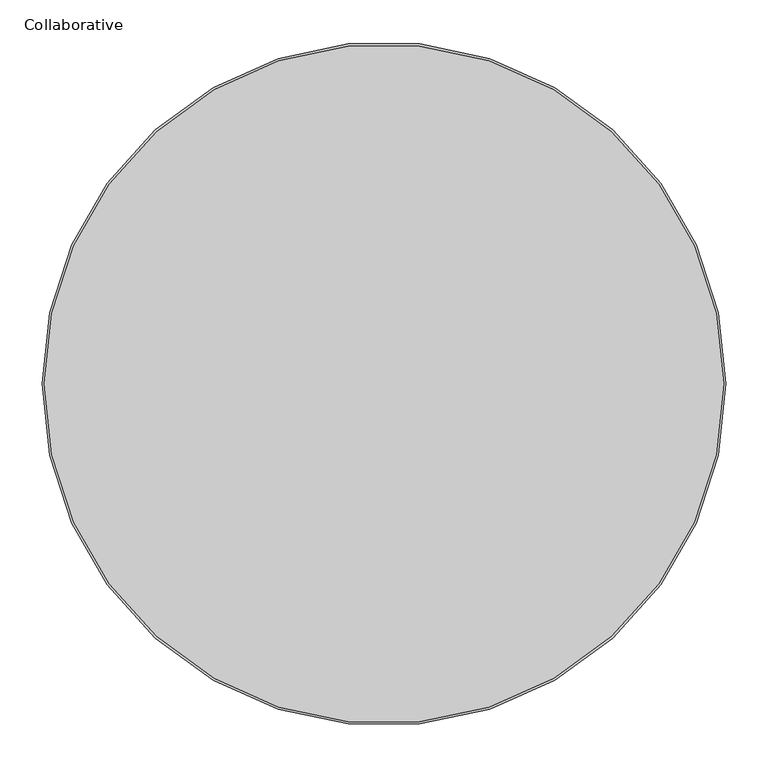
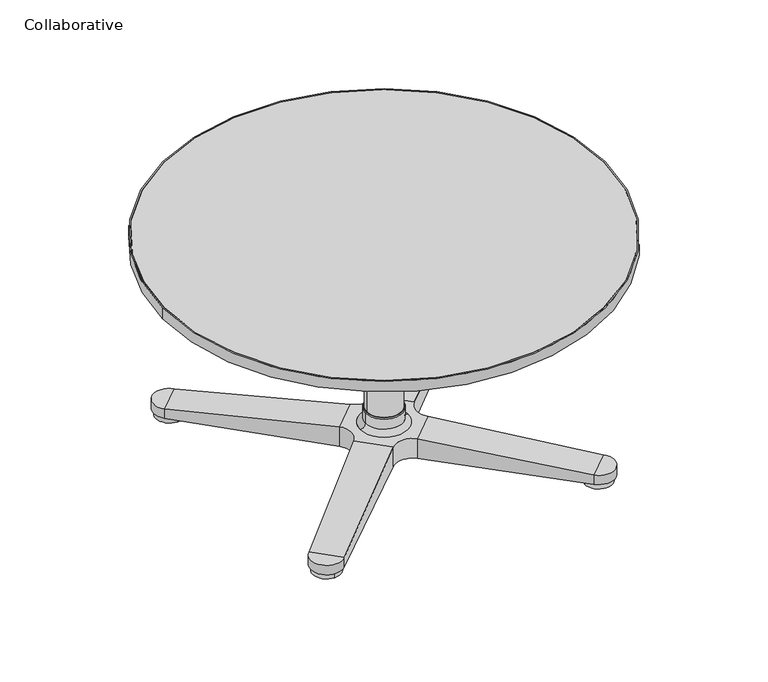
"""IFC4 building model written with IfcOpenShell, lengths in millimetres: furniture geometry, Steelcase - C Scape - Desking - Lounge Table : Collaborative."""

import ifcopenshell
import ifcopenshell.guid

model = None  # the IFC model being written
_history = None  # IfcOwnerHistory: only IFC2X3 demands one
_inside = {}  # id of a spatial element -> (the spatial element, [elements in it])
_under = {}  # id of a project, library or spatial element -> (it, [spatial elements below it])
_declared = {}  # id of a project -> (the project, [libraries it declares])
_typed = {}  # id of a type object -> (the type object, [elements of that type])
_made_of = {}  # id of a material, layer set ... -> (it, [elements and type objects made of it])


def new_model(schema):
    """Start an empty IFC model of exactly this schema.

    Asked for "IFC4X3", IfcOpenShell would pick the latest addendum, in which some entities
    have other attributes; the version numbers below select the first issue.
    IFC2X3 requires an IfcOwnerHistory on every rooted entity: one is made here for all.
    """
    global model, _history
    if schema == "IFC4X3":
        model = ifcopenshell.file(schema_version=(4, 3, 0, 0))
    else:
        model = ifcopenshell.file(schema=schema)
    _inside.clear()
    _under.clear()
    _declared.clear()
    _typed.clear()
    _made_of.clear()
    _history = None
    if model.schema == "IFC2X3":
        org = make("IfcOrganization", Name="unknown")
        user = make(
            "IfcPersonAndOrganization",
            ThePerson=make("IfcPerson", FamilyName="unknown"),
            TheOrganization=org,
        )
        app = make(
            "IfcApplication",
            ApplicationDeveloper=org,
            Version="unknown",
            ApplicationFullName="unknown",
            ApplicationIdentifier="unknown",
        )
        _history = make(
            "IfcOwnerHistory",
            OwningUser=user,
            OwningApplication=app,
            ChangeAction="ADDED",
            CreationDate=0,
        )
    return model


def make(cls, **values):
    """One entity of the class cls with the attributes given. An attribute that is None is left unset."""
    return model.create_entity(
        cls, **{name: value for name, value in values.items() if value is not None}
    )


def rooted(cls, **values):
    """An entity with a GlobalId (a new one), such as an element, a storey or a relation."""
    return make(cls, GlobalId=ifcopenshell.guid.new(), OwnerHistory=_history, **values)


def si_unit(unit_type, name, prefix=None):
    """IfcSIUnit, for example si_unit("LENGTHUNIT", "METRE", prefix="MILLI")."""
    return make("IfcSIUnit", UnitType=unit_type, Prefix=prefix, Name=name)


def assignment(units):
    """IfcUnitAssignment: the units of a project."""
    return None if units is None else make("IfcUnitAssignment", Units=units)


def point(xyz):
    """IfcCartesianPoint."""
    return None if xyz is None else make("IfcCartesianPoint", Coordinates=xyz)


def direction(xyz):
    """IfcDirection."""
    return None if xyz is None else make("IfcDirection", DirectionRatios=xyz)


def frame(location, z_axis=None, x_axis=None):
    """IfcAxis2Placement3D, a coordinate frame: its origin and axes. An axis left out is left unset."""
    return make(
        "IfcAxis2Placement3D",
        Location=point(location),
        Axis=direction(z_axis),
        RefDirection=direction(x_axis),
    )


def frame_2d(location, x_axis=None):
    """IfcAxis2Placement2D, a coordinate frame in the plane: its origin and x axis."""
    return make(
        "IfcAxis2Placement2D", Location=point(location), RefDirection=direction(x_axis)
    )


def origin():
    """The frame at (0, 0, 0) with its axes left unset."""
    return frame((0.0, 0.0, 0.0))


def origin_2d():
    """The frame at (0, 0) in the plane with its x axis left unset."""
    return frame_2d((0.0, 0.0))


def place(relative_to, where):
    """IfcLocalPlacement: puts the frame where relative to a parent placement (None: the world)."""
    return make(
        "IfcLocalPlacement", PlacementRelTo=relative_to, RelativePlacement=where
    )


def context(
    kind, dimensions, precision=None, world=None, true_north=None, identifier=None
):
    """IfcGeometricRepresentationContext, for example the 3D "Model" context."""
    return make(
        "IfcGeometricRepresentationContext",
        ContextIdentifier=identifier,
        ContextType=kind,
        CoordinateSpaceDimension=dimensions,
        Precision=precision,
        WorldCoordinateSystem=world,
        TrueNorth=true_north,
    )


def project(units=None, contexts=None):
    """IfcProject with its units and contexts."""
    return rooted(
        "IfcProject",
        Name="project",
        RepresentationContexts=contexts,
        UnitsInContext=assignment(units),
    )


def spatial(cls, under=None, at=None, **own):
    """A site, building, storey or space (cls), placed at a placement, below another one or the project."""
    s = rooted(cls, ObjectPlacement=at, **own)
    if under is not None:
        _under.setdefault(under.id(), (under, []))[1].append(s)
    return s


def polyline(points):
    """IfcPolyline through the points."""
    return make("IfcPolyline", Points=[point(p) for p in points])


def circle_curve(where, radius):
    """IfcCircle in the frame where."""
    return make("IfcCircle", Position=where, Radius=radius)


def ellipse_curve(where, semi_axis1, semi_axis2):
    """IfcEllipse in the frame where."""
    return make(
        "IfcEllipse", Position=where, SemiAxis1=semi_axis1, SemiAxis2=semi_axis2
    )


def trimmed(basis, trim1, trim2, sense, master):
    """IfcTrimmedCurve: the piece of a basis curve between two trims."""
    return make(
        "IfcTrimmedCurve",
        BasisCurve=basis,
        Trim1=trim1,
        Trim2=trim2,
        SenseAgreement=sense,
        MasterRepresentation=master,
    )


def segment(curve, same_sense, transition):
    """IfcCompositeCurveSegment."""
    return make(
        "IfcCompositeCurveSegment",
        Transition=transition,
        SameSense=same_sense,
        ParentCurve=curve,
    )


def composite_curve(segments, self_intersect=None):
    """IfcCompositeCurve: segments joined end to end."""
    return make("IfcCompositeCurve", Segments=segments, SelfIntersect=self_intersect)


def outline(outer, holes=None, kind="AREA"):
    """IfcArbitraryClosedProfileDef: a profile drawn as a closed curve; with holes, ...WithVoids."""
    if holes is None:
        return make("IfcArbitraryClosedProfileDef", ProfileType=kind, OuterCurve=outer)
    return make(
        "IfcArbitraryProfileDefWithVoids",
        ProfileType=kind,
        OuterCurve=outer,
        InnerCurves=holes,
    )


def extrude(swept, where, along, depth):
    """IfcExtrudedAreaSolid: the profile swept, set in the frame where, extruded along a direction by depth."""
    return make(
        "IfcExtrudedAreaSolid",
        SweptArea=swept,
        Position=where,
        ExtrudedDirection=direction(along),
        Depth=depth,
    )


def shape(context_of_items, identifier, shape_type, items):
    """IfcShapeRepresentation: the items that make up one representation, for example the "Body"."""
    return make(
        "IfcShapeRepresentation",
        ContextOfItems=context_of_items,
        RepresentationIdentifier=identifier,
        RepresentationType=shape_type,
        Items=items,
    )


def source(mapping_origin, context_of_items, identifier, shape_type, items):
    """IfcRepresentationMap: a shape defined once, which mapped items show again and again."""
    return make(
        "IfcRepresentationMap",
        MappingOrigin=mapping_origin,
        MappedRepresentation=shape(context_of_items, identifier, shape_type, items),
    )


def transform(
    local_origin,
    x_axis=None,
    y_axis=None,
    z_axis=None,
    scale=None,
    scale2=None,
    scale3=None,
    uniform=True,
):
    """IfcCartesianTransformationOperator3D, or its non-uniform kind. x_axis, y_axis, z_axis: its Axis1, 2, 3."""
    if uniform:
        return make(
            "IfcCartesianTransformationOperator3D",
            Axis1=direction(x_axis),
            Axis2=direction(y_axis),
            LocalOrigin=point(local_origin),
            Scale=scale,
            Axis3=direction(z_axis),
        )
    return make(
        "IfcCartesianTransformationOperator3DnonUniform",
        Axis1=direction(x_axis),
        Axis2=direction(y_axis),
        LocalOrigin=point(local_origin),
        Scale=scale,
        Axis3=direction(z_axis),
        Scale2=scale2,
        Scale3=scale3,
    )


def mapped(mapping_source, mapping_target):
    """IfcMappedItem: shows the shape of a source again, moved by a transform."""
    return make(
        "IfcMappedItem", MappingSource=mapping_source, MappingTarget=mapping_target
    )


def made_of(thing, what):
    """Note that an element or type object is made of a material, layer set ...; save() writes the relation."""
    if what is not None:
        _made_of.setdefault(what.id(), (what, []))[1].append(thing)
    return thing


def element(
    cls,
    number,
    at=None,
    inside=None,
    cuts=None,
    type_object=None,
    material=None,
    context=None,
    identifier="Body",
    shape_type=None,
    held_by="IfcProductDefinitionShape",
    body=None,
    shapes=None,
    **own,
):
    """One element of the class cls, such as IfcWall. Its Tag is "e" and its number.

    at: its placement. inside: the storey or other place that contains it. cuts: it is an
    opening in that element (IfcRelVoidsElement). A single representation is given by context,
    identifier, shape_type and body (its items); several are given by shapes. held_by: the class
    of the entity that holds the representations. save() writes the other relations.
    """
    e = rooted(cls, Tag="e%d" % number, ObjectPlacement=at, **own)
    if body is not None:
        shapes = [shape(context, identifier, shape_type, body)]
    if shapes is not None:
        e.Representation = make(held_by, Representations=shapes)
    if inside is not None:
        _inside.setdefault(inside.id(), (inside, []))[1].append(e)
    if cuts is not None:
        rooted(
            "IfcRelVoidsElement", RelatingBuildingElement=cuts, RelatedOpeningElement=e
        )
    if type_object is not None:
        _typed.setdefault(type_object.id(), (type_object, []))[1].append(e)
    return made_of(e, material)


def aggregate(whole, parts):
    """IfcRelAggregates: a whole, such as a stair, and the parts it consists of."""
    return rooted("IfcRelAggregates", RelatingObject=whole, RelatedObjects=parts)


def save(model, path):
    """Write the relations noted so far, then the file.

    IfcRelAggregates (storeys below a building ...), IfcRelContainedInSpatialStructure (elements
    in a storey), IfcRelDefinesByType, IfcRelAssociatesMaterial and IfcRelDeclares: one each for
    every whole, place, type object, material and project.
    """
    for whole, parts in _under.values():
        aggregate(whole, parts)
    for where, things in _inside.values():
        rooted(
            "IfcRelContainedInSpatialStructure",
            RelatedElements=things,
            RelatingStructure=where,
        )
    for kind, things in _typed.values():
        rooted("IfcRelDefinesByType", RelatedObjects=things, RelatingType=kind)
    for what, things in _made_of.values():
        rooted("IfcRelAssociatesMaterial", RelatedObjects=things, RelatingMaterial=what)
    for by, libraries in _declared.values():
        rooted("IfcRelDeclares", RelatingContext=by, RelatedDefinitions=libraries)
    model.write(path)


def plane_surface(at):
    """IfcPlane: the flat surface through the origin of the frame at, square to its z axis."""
    return make("IfcPlane", Position=at)


def cylinder_surface(at, radius):
    """IfcCylindricalSurface: all points at the distance radius from the z axis of the frame at."""
    return make("IfcCylindricalSurface", Position=at, Radius=radius)


def revolved_surface(curve, axis_point, axis_direction):
    """IfcSurfaceOfRevolution: the curve turned about the line through axis_point along axis_direction."""
    return make(
        "IfcSurfaceOfRevolution",
        SweptCurve=make("IfcArbitraryOpenProfileDef", ProfileType="CURVE", Curve=curve),
        AxisPosition=make("IfcAxis1Placement", Location=point(axis_point), Axis=direction(axis_direction)),
    )


def advanced_brep(points, edges, surfaces, faces):
    """IfcAdvancedBrep: a solid bounded by faces that lie on surfaces and meet in shared edges.

    An edge is (start, end): straight between two places in points (the first is 0);
    or (start, end, curve); or (start, end, curve, False) where it runs against its curve.
    A face is (place in surfaces, loops), or (place, loops, False) where it looks against
    its surface's normal. A loop lists edges by number (the first is 1), with a minus sign
    where the edge is run from its end to its start. The first loop is the outer one.
    """
    corners = [point(p) for p in points]
    vertices = [make("IfcVertexPoint", VertexGeometry=c) for c in corners]
    made = []
    for start, end, *more in edges:
        made.append(
            make(
                "IfcEdgeCurve",
                EdgeStart=vertices[start],
                EdgeEnd=vertices[end],
                EdgeGeometry=more[0] if more else make("IfcPolyline", Points=[corners[start], corners[end]]),
                SameSense=more[1] if len(more) > 1 else True,
            )
        )
    hull = []
    for where, loops, *sense in faces:
        bounds = []
        for j, loop in enumerate(loops):
            ring = [make("IfcOrientedEdge", EdgeElement=made[abs(k) - 1], Orientation=k > 0) for k in loop]
            bounds.append(
                make(
                    "IfcFaceOuterBound" if j == 0 else "IfcFaceBound",
                    Bound=make("IfcEdgeLoop", EdgeList=ring),
                    Orientation=True,
                )
            )
        hull.append(make("IfcAdvancedFace", Bounds=bounds, FaceSurface=surfaces[where], SameSense=sense[0] if sense else True))
    return make("IfcAdvancedBrep", Outer=make("IfcClosedShell", CfsFaces=hull))


def collaborative_a340eaef(model_context):
    return source(origin(), model_context, "Body", "SolidModel", [
        advanced_brep(
        [(-249.3159626, -249.3000025, 0.0), (-249.3159626, -223.9000025, 0.0), (-249.3159626, -274.7000025, 0.0), (-249.3159626, -252.3609912, 11.0998), (-249.3159626, -246.2390139, 11.0998), (-249.3159626, -249.3000025, 11.0998), (-249.3159626, -252.3609912, 9.525), (-249.3159626, -246.2390139, 9.525), (-249.3159626, -274.7000025, 9.525), (-249.3159626, -223.9000025, 9.525)],
        [
            (0, 1),
            (1, 2, circle_curve(frame((-249.3159626, -249.3000025, 0.0), z_axis=(0.0, 0.0, -1.0), x_axis=(0.0, 1.0, 0.0)), 25.4)),
            (2, 0),
            (2, 1, circle_curve(frame((-249.3159626, -249.3000025, 0.0), z_axis=(0.0, 0.0, -1.0), x_axis=(0.0, 1.0, 0.0)), 25.4)),
            (3, 4, circle_curve(frame((-249.3159626, -249.3000025, 11.0998), z_axis=(0.0, 0.0, 1.0), x_axis=(0.0, 1.0, 0.0)), 3.0609887)),
            (4, 5),
            (5, 3),
            (4, 3, circle_curve(frame((-249.3159626, -249.3000025, 11.0998), z_axis=(0.0, 0.0, 1.0), x_axis=(0.0, 1.0, 0.0)), 3.0609887)),
            (6, 7, circle_curve(frame((-249.3159626, -249.3000025, 9.525), z_axis=(0.0, 0.0, 1.0), x_axis=(0.0, 1.0, 0.0)), 3.0609887)),
            (7, 4),
            (3, 6),
            (7, 6, circle_curve(frame((-249.3159626, -249.3000025, 9.525), z_axis=(0.0, 0.0, 1.0), x_axis=(0.0, 1.0, 0.0)), 3.0609887)),
            (8, 9, circle_curve(frame((-249.3159626, -249.3000025, 9.525), z_axis=(0.0, 0.0, 1.0), x_axis=(0.0, 1.0, 0.0)), 25.4)),
            (9, 7),
            (6, 8),
            (9, 8, circle_curve(frame((-249.3159626, -249.3000025, 9.525), z_axis=(0.0, 0.0, 1.0), x_axis=(0.0, 1.0, 0.0)), 25.4)),
            (1, 9),
            (8, 2),
        ],
        [
            plane_surface(frame((-249.3159626, -249.3000025, 0.0), z_axis=(0.0, 0.0, -1.0), x_axis=(0.0, 1.0, 0.0))),
            plane_surface(frame((-249.3159626, -249.3000025, 11.0998), z_axis=(0.0, 0.0, 1.0), x_axis=(0.0, 1.0, 0.0))),
            cylinder_surface(frame((-249.3159626, -249.3000025, 2.6412438), z_axis=(0.0, 0.0, -1.0), x_axis=(0.0, 1.0, 0.0)), 3.0609887),
            plane_surface(frame((-249.3159626, -249.3000025, 9.525), z_axis=(0.0, 0.0, 1.0), x_axis=(0.0, 1.0, 0.0))),
            cylinder_surface(frame((-249.3159626, -249.3000025, 2.6412438), z_axis=(0.0, 0.0, -1.0), x_axis=(0.0, 1.0, 0.0)), 25.4),
        ],
        [
            (0, [[1, 2, 3]]),
            (0, [[-3, 4, -1]]),
            (1, [[5, 6, 7]]),
            (1, [[8, -7, -6]]),
            (2, [[9, 10, -5, 11]]),
            (2, [[12, -11, -8, -10]]),
            (3, [[13, 14, -9, 15]]),
            (3, [[16, -15, -12, -14]]),
            (4, [[-2, 17, -13, 18]]),
            (4, [[-4, -18, -16, -17]]),
        ],
    ),
        advanced_brep(
        [(-249.3159626, 274.7000025, 9.525), (-249.3159626, 223.9000025, 9.525), (-249.3159626, 223.9000025, 0.0), (-249.3159626, 274.7000025, 0.0), (-249.3159626, 252.3609912, 9.525), (-249.3159626, 246.2390139, 9.525), (-249.3159626, 252.3609912, 11.0998), (-249.3159626, 246.2390139, 11.0998), (-249.3159626, 249.3000025, 11.0998), (-249.3159626, 249.3000025, 0.0)],
        [
            (0, 1, circle_curve(frame((-249.3159626, 249.3000025, 9.525), z_axis=(0.0, 0.0, -1.0), x_axis=(0.0, -1.0, 0.0)), 25.4)),
            (1, 2),
            (2, 3, circle_curve(frame((-249.3159626, 249.3000025, 0.0), z_axis=(0.0, 0.0, 1.0), x_axis=(0.0, -1.0, 0.0)), 25.4)),
            (3, 0),
            (1, 0, circle_curve(frame((-249.3159626, 249.3000025, 9.525), z_axis=(0.0, 0.0, -1.0), x_axis=(0.0, -1.0, 0.0)), 25.4)),
            (3, 2, circle_curve(frame((-249.3159626, 249.3000025, 0.0), z_axis=(0.0, 0.0, 1.0), x_axis=(0.0, -1.0, 0.0)), 25.4)),
            (4, 5, circle_curve(frame((-249.3159626, 249.3000025, 9.525), z_axis=(0.0, 0.0, -1.0), x_axis=(0.0, -1.0, 0.0)), 3.0609887)),
            (5, 1),
            (0, 4),
            (5, 4, circle_curve(frame((-249.3159626, 249.3000025, 9.525), z_axis=(0.0, 0.0, -1.0), x_axis=(0.0, -1.0, 0.0)), 3.0609887)),
            (6, 7, circle_curve(frame((-249.3159626, 249.3000025, 11.0998), z_axis=(0.0, 0.0, -1.0), x_axis=(0.0, -1.0, 0.0)), 3.0609887)),
            (7, 5),
            (4, 6),
            (7, 6, circle_curve(frame((-249.3159626, 249.3000025, 11.0998), z_axis=(0.0, 0.0, -1.0), x_axis=(0.0, -1.0, 0.0)), 3.0609887)),
            (8, 7),
            (6, 8),
            (2, 9),
            (9, 3),
        ],
        [
            cylinder_surface(frame((-249.3159626, 249.3000025, 2.6412438), z_axis=(0.0, 0.0, 1.0), x_axis=(0.0, -1.0, 0.0)), 25.4),
            plane_surface(frame((-249.3159626, 249.3000025, 9.525), z_axis=(0.0, 0.0, 1.0), x_axis=(0.0, -1.0, 0.0))),
            cylinder_surface(frame((-249.3159626, 249.3000025, 2.6412438), z_axis=(0.0, 0.0, 1.0), x_axis=(0.0, -1.0, 0.0)), 3.0609887),
            plane_surface(frame((-249.3159626, 249.3000025, 11.0998), z_axis=(0.0, 0.0, 1.0), x_axis=(0.0, -1.0, 0.0))),
            plane_surface(frame((-249.3159626, 249.3000025, 0.0), z_axis=(0.0, 0.0, -1.0), x_axis=(0.0, -1.0, 0.0))),
        ],
        [
            (0, [[1, 2, 3, 4]]),
            (0, [[5, -4, 6, -2]]),
            (1, [[7, 8, -1, 9]]),
            (1, [[10, -9, -5, -8]]),
            (2, [[11, 12, -7, 13]]),
            (2, [[14, -13, -10, -12]]),
            (3, [[15, -11, 16]]),
            (3, [[-16, -14, -15]]),
            (4, [[-3, 17, 18]]),
            (4, [[-6, -18, -17]]),
        ],
    ),
        advanced_brep(
        [(249.3159626, 249.3000025, 0.0), (249.3159626, 223.9000025, 0.0), (249.3159626, 274.7000025, 0.0), (249.3159626, 252.3609912, 11.0998), (249.3159626, 246.2390139, 11.0998), (249.3159626, 249.3000025, 11.0998), (249.3159626, 252.3609912, 9.525), (249.3159626, 246.2390139, 9.525), (249.3159626, 274.7000025, 9.525), (249.3159626, 223.9000025, 9.525)],
        [
            (0, 1),
            (1, 2, circle_curve(frame((249.3159626, 249.3000025, 0.0), z_axis=(0.0, 0.0, -1.0), x_axis=(0.0, -1.0, 0.0)), 25.4)),
            (2, 0),
            (2, 1, circle_curve(frame((249.3159626, 249.3000025, 0.0), z_axis=(0.0, 0.0, -1.0), x_axis=(0.0, -1.0, 0.0)), 25.4)),
            (3, 4, circle_curve(frame((249.3159626, 249.3000025, 11.0998), z_axis=(0.0, 0.0, 1.0), x_axis=(0.0, -1.0, 0.0)), 3.0609887)),
            (4, 5),
            (5, 3),
            (4, 3, circle_curve(frame((249.3159626, 249.3000025, 11.0998), z_axis=(0.0, 0.0, 1.0), x_axis=(0.0, -1.0, 0.0)), 3.0609887)),
            (6, 7, circle_curve(frame((249.3159626, 249.3000025, 9.525), z_axis=(0.0, 0.0, 1.0), x_axis=(0.0, -1.0, 0.0)), 3.0609887)),
            (7, 4),
            (3, 6),
            (7, 6, circle_curve(frame((249.3159626, 249.3000025, 9.525), z_axis=(0.0, 0.0, 1.0), x_axis=(0.0, -1.0, 0.0)), 3.0609887)),
            (8, 9, circle_curve(frame((249.3159626, 249.3000025, 9.525), z_axis=(0.0, 0.0, 1.0), x_axis=(0.0, -1.0, 0.0)), 25.4)),
            (9, 7),
            (6, 8),
            (9, 8, circle_curve(frame((249.3159626, 249.3000025, 9.525), z_axis=(0.0, 0.0, 1.0), x_axis=(0.0, -1.0, 0.0)), 25.4)),
            (1, 9),
            (8, 2),
        ],
        [
            plane_surface(frame((249.3159626, 249.3000025, 0.0), z_axis=(0.0, 0.0, -1.0), x_axis=(0.0, -1.0, 0.0))),
            plane_surface(frame((249.3159626, 249.3000025, 11.0998), z_axis=(0.0, 0.0, 1.0), x_axis=(0.0, -1.0, 0.0))),
            cylinder_surface(frame((249.3159626, 249.3000025, 2.6412438), z_axis=(0.0, 0.0, -1.0), x_axis=(0.0, -1.0, 0.0)), 3.0609887),
            plane_surface(frame((249.3159626, 249.3000025, 9.525), z_axis=(0.0, 0.0, 1.0), x_axis=(0.0, -1.0, 0.0))),
            cylinder_surface(frame((249.3159626, 249.3000025, 2.6412438), z_axis=(0.0, 0.0, -1.0), x_axis=(0.0, -1.0, 0.0)), 25.4),
        ],
        [
            (0, [[1, 2, 3]]),
            (0, [[-3, 4, -1]]),
            (1, [[5, 6, 7]]),
            (1, [[8, -7, -6]]),
            (2, [[9, 10, -5, 11]]),
            (2, [[12, -11, -8, -10]]),
            (3, [[13, 14, -9, 15]]),
            (3, [[16, -15, -12, -14]]),
            (4, [[-2, 17, -13, 18]]),
            (4, [[-4, -18, -16, -17]]),
        ],
    ),
        advanced_brep(
        [(249.3000025, -249.3159626, 0.0), (223.9000025, -249.3159626, 0.0), (274.7000025, -249.3159626, 0.0), (252.3609912, -249.3159626, 11.0998), (246.2390139, -249.3159626, 11.0998), (249.3000025, -249.3159626, 11.0998), (252.3609912, -249.3159626, 9.525), (246.2390139, -249.3159626, 9.525), (274.7000025, -249.3159626, 9.525), (223.9000025, -249.3159626, 9.525)],
        [
            (0, 1),
            (1, 2, circle_curve(frame((249.3000025, -249.3159626, 0.0), z_axis=(0.0, 0.0, -1.0), x_axis=(-1.0, 0.0, 0.0)), 25.4)),
            (2, 0),
            (2, 1, circle_curve(frame((249.3000025, -249.3159626, 0.0), z_axis=(0.0, 0.0, -1.0), x_axis=(-1.0, 0.0, 0.0)), 25.4)),
            (3, 4, circle_curve(frame((249.3000025, -249.3159626, 11.0998), z_axis=(0.0, 0.0, 1.0), x_axis=(-1.0, 0.0, 0.0)), 3.0609887)),
            (4, 5),
            (5, 3),
            (4, 3, circle_curve(frame((249.3000025, -249.3159626, 11.0998), z_axis=(0.0, 0.0, 1.0), x_axis=(-1.0, 0.0, 0.0)), 3.0609887)),
            (6, 7, circle_curve(frame((249.3000025, -249.3159626, 9.525), z_axis=(0.0, 0.0, 1.0), x_axis=(-1.0, 0.0, 0.0)), 3.0609887)),
            (7, 4),
            (3, 6),
            (7, 6, circle_curve(frame((249.3000025, -249.3159626, 9.525), z_axis=(0.0, 0.0, 1.0), x_axis=(-1.0, 0.0, 0.0)), 3.0609887)),
            (8, 9, circle_curve(frame((249.3000025, -249.3159626, 9.525), z_axis=(0.0, 0.0, 1.0), x_axis=(-1.0, 0.0, 0.0)), 25.4)),
            (9, 7),
            (6, 8),
            (9, 8, circle_curve(frame((249.3000025, -249.3159626, 9.525), z_axis=(0.0, 0.0, 1.0), x_axis=(-1.0, 0.0, 0.0)), 25.4)),
            (1, 9),
            (8, 2),
        ],
        [
            plane_surface(frame((249.3000025, -249.3159626, 0.0), z_axis=(0.0, 0.0, -1.0), x_axis=(-1.0, 0.0, 0.0))),
            plane_surface(frame((249.3000025, -249.3159626, 11.0998), z_axis=(0.0, 0.0, 1.0), x_axis=(-1.0, 0.0, 0.0))),
            cylinder_surface(frame((249.3000025, -249.3159626, 2.6412438), z_axis=(0.0, 0.0, -1.0), x_axis=(-1.0, 0.0, 0.0)), 3.0609887),
            plane_surface(frame((249.3000025, -249.3159626, 9.525), z_axis=(0.0, 0.0, 1.0), x_axis=(-1.0, 0.0, 0.0))),
            cylinder_surface(frame((249.3000025, -249.3159626, 2.6412438), z_axis=(0.0, 0.0, -1.0), x_axis=(-1.0, 0.0, 0.0)), 25.4),
        ],
        [
            (0, [[1, 2, 3]]),
            (0, [[-3, 4, -1]]),
            (1, [[5, 6, 7]]),
            (1, [[8, -7, -6]]),
            (2, [[9, 10, -5, 11]]),
            (2, [[12, -11, -8, -10]]),
            (3, [[13, 14, -9, 15]]),
            (3, [[16, -15, -12, -14]]),
            (4, [[-2, 17, -13, 18]]),
            (4, [[-4, -18, -16, -17]]),
        ],
    ),
        advanced_brep(
        [(22.6781285, -68.3300991, 48.997771), (228.7300701, -269.8533933, 29.0517203), (269.674061, -228.9094025, 29.0517203), (68.3300991, -22.6781285, 48.997771), (22.6801711, -68.3320968, 11.0998), (228.7300701, -269.8533933, 11.0998), (-22.6781285, -68.3300991, 11.0998), (-228.7300701, -269.8533933, 11.0998), (-269.674061, -228.9094025, 11.0998), (-68.3300991, -22.6781285, 11.0998), (-68.3300991, 22.6781285, 11.0998), (-269.8533933, 228.7300701, 11.0998), (-269.674061, 228.9094025, 11.0998), (-228.7300701, 269.8533933, 11.0998), (-228.9094025, 269.674061, 11.0998), (-22.6781285, 68.3300991, 11.0998), (22.6781285, 68.3300991, 11.0998), (228.9094025, 269.674061, 11.0998), (228.7300701, 269.8533933, 11.0998), (269.674061, 228.9094025, 11.0998), (269.8533933, 228.7300701, 11.0998), (68.3300991, 22.6781285, 11.0998), (68.3300991, -22.6781285, 11.0998), (269.674061, -228.9094025, 11.0998), (22.6781285, 68.3300991, 48.997771), (-22.6781285, 68.3300991, 48.997771), (-68.3300991, 22.6781285, 48.997771), (-68.3300991, -22.6781285, 48.997771), (-22.6781285, -68.3300991, 48.997771), (68.3300991, 22.6781285, 48.997771), (-43.4884741, 0.0, 48.997771), (43.4884741, 0.0, 48.997771), (-269.674061, -228.9094025, 29.0517203), (-228.7300701, -269.8533933, 29.0517203), (-269.8533933, 228.7300701, 29.0517203), (-269.674061, 228.9094025, 29.0517203), (-228.9094025, 269.674061, 29.0517203), (269.8533933, 228.7300701, 29.0517203), (269.674061, 228.9094025, 29.0517203), (228.9094025, 269.674061, 29.0517203), (228.7300701, 269.8533933, 29.0517203), (-228.7300701, 269.8533933, 29.0517203), (25.4, 0.0, 371.4496), (-25.4, 0.0, 371.4496), (-25.4, 0.0, 387.4516), (25.4, 0.0, 387.4516), (31.75, 0.0, 371.4496), (-31.75, 0.0, 371.4496), (31.75, 0.0, 79.3496), (-31.75, 0.0, 79.3496), (32.617579, 0.0, 79.3496), (-32.617579, 0.0, 79.3496), (34.1966715, 0.0, 77.7705074), (-34.1966715, 0.0, 77.7705074), (34.1966715, 0.0, 58.2895736), (-34.1966715, 0.0, 58.2895736), (120.6489717, 120.6459204, 390.652), (-120.6502532, 120.6459204, 390.652), (-120.6502532, -120.650979, 390.652), (120.6489717, -120.650979, 390.652), (120.6489717, 120.6459204, 387.4516), (120.6489717, -120.650979, 387.4516), (-120.6502532, -120.650979, 387.4516), (-120.6502532, 120.6459204, 387.4516)],
        [
            (0, 1),
            (1, 2),
            (2, 3),
            (3, 0),
            (0, 4),
            (4, 5),
            (5, 1),
            (4, 6, circle_curve(frame((0.0, -91.5219385, 11.0998), z_axis=(0.0, 0.0, 1.0), x_axis=(1.0, 0.0, 0.0)), 32.4369994)),
            (6, 7),
            (7, 8, circle_curve(frame((-249.602915, -249.7822474, 11.0998), z_axis=(0.0, 0.0, -1.0), x_axis=(-1.0, 0.0, 0.0)), 28.957323)),
            (8, 9),
            (9, 10, circle_curve(frame((-91.5219385, 0.0, 11.0998), z_axis=(0.0, 0.0, 1.0), x_axis=(1.0, 0.0, 0.0)), 32.4369994)),
            (10, 11),
            (11, 12),
            (12, 13, circle_curve(frame((-249.602915, 249.7822474, 11.0998), z_axis=(0.0, 0.0, -1.0), x_axis=(-1.0, 0.0, 0.0)), 28.957323)),
            (13, 14),
            (14, 15),
            (15, 16, circle_curve(frame((0.0, 91.5219385, 11.0998), z_axis=(0.0, 0.0, 1.0), x_axis=(1.0, 0.0, 0.0)), 32.4369994)),
            (16, 17),
            (17, 18),
            (18, 19, circle_curve(frame((249.602915, 249.7822474, 11.0998), z_axis=(0.0, 0.0, -1.0), x_axis=(1.0, 0.0, 0.0)), 28.957323)),
            (19, 20),
            (20, 21),
            (21, 22, circle_curve(frame((91.5219385, 0.0, 11.0998), z_axis=(0.0, 0.0, 1.0), x_axis=(1.0, 0.0, 0.0)), 32.4369994)),
            (22, 23),
            (23, 5, circle_curve(frame((249.602915, -249.7822474, 11.0998), z_axis=(0.0, 0.0, -1.0), x_axis=(1.0, 0.0, 0.0)), 28.957323)),
            (2, 23),
            (22, 3),
            (24, 25, circle_curve(frame((0.0, 91.5219385, 48.997771), z_axis=(0.0, 0.0, -1.0), x_axis=(1.0, 0.0, 0.0)), 32.4369994)),
            (25, 26),
            (26, 27, circle_curve(frame((-91.5219385, 0.0, 48.997771), z_axis=(0.0, 0.0, -1.0), x_axis=(1.0, 0.0, 0.0)), 32.4369994)),
            (27, 28),
            (28, 0, circle_curve(frame((0.0, -91.5219385, 48.997771), z_axis=(0.0, 0.0, -1.0), x_axis=(1.0, 0.0, 0.0)), 32.4369994)),
            (3, 29, circle_curve(frame((91.5219385, 0.0, 48.997771), z_axis=(0.0, 0.0, -1.0), x_axis=(1.0, 0.0, 0.0)), 32.4369994)),
            (29, 24),
            (30, 31, circle_curve(frame((0.0, 0.0, 48.997771), z_axis=(0.0, 0.0, -1.0), x_axis=(-1.0, 0.0, 0.0)), 43.4884741)),
            (31, 30, circle_curve(frame((0.0, 0.0, 48.997771), z_axis=(0.0, 0.0, -1.0), x_axis=(-1.0, 0.0, 0.0)), 43.4884741)),
            (24, 16),
            (15, 25),
            (26, 10),
            (9, 27),
            (28, 6),
            (21, 29),
            (1, 2, circle_curve(frame((249.602915, -249.7822474, 29.0517203), z_axis=(0.0, 0.0, 1.0), x_axis=(1.0, 0.0, 0.0)), 28.957323)),
            (8, 32),
            (32, 27),
            (28, 33),
            (33, 7),
            (32, 33),
            (11, 34),
            (34, 35),
            (35, 12),
            (14, 36),
            (36, 25),
            (26, 34),
            (36, 35),
            (37, 20),
            (19, 38),
            (38, 37),
            (29, 37),
            (38, 39),
            (39, 24),
            (39, 17),
            (38, 40, circle_curve(frame((249.602915, 249.7822474, 29.0517203), z_axis=(0.0, 0.0, 1.0), x_axis=(1.0, 0.0, 0.0)), 28.957323)),
            (40, 39),
            (18, 40),
            (32, 33, circle_curve(frame((-249.602915, -249.7822474, 29.0517203), z_axis=(0.0, 0.0, 1.0), x_axis=(-1.0, 0.0, 0.0)), 28.957323)),
            (41, 35, circle_curve(frame((-249.602915, 249.7822474, 29.0517203), z_axis=(0.0, 0.0, 1.0), x_axis=(-1.0, 0.0, 0.0)), 28.957323)),
            (36, 41),
            (13, 41),
            (42, 43, circle_curve(frame((0.0, 0.0, 371.4496), z_axis=(0.0, 0.0, 1.0), x_axis=(-1.0, 0.0, 0.0)), 25.4)),
            (43, 44),
            (44, 45, circle_curve(frame((0.0, 0.0, 387.4516), z_axis=(0.0, 0.0, -1.0), x_axis=(-1.0, 0.0, 0.0)), 25.4)),
            (45, 42),
            (43, 42, circle_curve(frame((0.0, 0.0, 371.4496), z_axis=(0.0, 0.0, 1.0), x_axis=(-1.0, 0.0, 0.0)), 25.4)),
            (45, 44, circle_curve(frame((0.0, 0.0, 387.4516), z_axis=(0.0, 0.0, -1.0), x_axis=(-1.0, 0.0, 0.0)), 25.4)),
            (42, 46),
            (46, 47, circle_curve(frame((0.0, 0.0, 371.4496), z_axis=(0.0, 0.0, 1.0), x_axis=(-1.0, 0.0, 0.0)), 31.75)),
            (47, 43),
            (47, 46, circle_curve(frame((0.0, 0.0, 371.4496), z_axis=(0.0, 0.0, 1.0), x_axis=(-1.0, 0.0, 0.0)), 31.75)),
            (46, 48),
            (48, 49, circle_curve(frame((0.0, 0.0, 79.3496), z_axis=(0.0, 0.0, 1.0), x_axis=(-1.0, 0.0, 0.0)), 31.75)),
            (49, 47),
            (49, 48, circle_curve(frame((0.0, 0.0, 79.3496), z_axis=(0.0, 0.0, 1.0), x_axis=(-1.0, 0.0, 0.0)), 31.75)),
            (48, 50),
            (50, 51, circle_curve(frame((0.0, 0.0, 79.3496), z_axis=(0.0, 0.0, 1.0), x_axis=(-1.0, 0.0, 0.0)), 32.617579)),
            (51, 49),
            (51, 50, circle_curve(frame((0.0, 0.0, 79.3496), z_axis=(0.0, 0.0, 1.0), x_axis=(-1.0, 0.0, 0.0)), 32.617579)),
            (50, 52, circle_curve(frame((32.617579, 0.0, 77.7705074), z_axis=(0.0, 1.0, 0.0), x_axis=(-1.0, 0.0, 0.0)), 1.5790926)),
            (52, 53, circle_curve(frame((0.0, 0.0, 77.7705074), z_axis=(0.0, 0.0, 1.0), x_axis=(-1.0, 0.0, 0.0)), 34.1966715)),
            (53, 51, circle_curve(frame((-32.617579, 0.0, 77.7705074), z_axis=(0.0, 1.0, 0.0), x_axis=(1.0, 0.0, 0.0)), 1.5790926)),
            (53, 52, circle_curve(frame((0.0, 0.0, 77.7705074), z_axis=(0.0, 0.0, 1.0), x_axis=(-1.0, 0.0, 0.0)), 34.1966715)),
            (52, 54),
            (54, 55, circle_curve(frame((0.0, 0.0, 58.2895736), z_axis=(0.0, 0.0, 1.0), x_axis=(-1.0, 0.0, 0.0)), 34.1966715)),
            (55, 53),
            (55, 54, circle_curve(frame((0.0, 0.0, 58.2895736), z_axis=(0.0, 0.0, 1.0), x_axis=(-1.0, 0.0, 0.0)), 34.1966715)),
            (54, 31, circle_curve(frame((43.4884741, 0.0, 58.2895736), z_axis=(0.0, -1.0, 0.0), x_axis=(-1.0, 0.0, 0.0)), 9.2918026)),
            (30, 55, circle_curve(frame((-43.4884741, 0.0, 58.2895736), z_axis=(0.0, -1.0, 0.0), x_axis=(1.0, 0.0, 0.0)), 9.2918026)),
            (56, 57),
            (57, 58),
            (58, 59),
            (59, 56),
            (60, 61),
            (61, 62),
            (62, 63),
            (63, 60),
            (56, 60),
            (63, 57),
            (62, 58),
            (61, 59),
        ],
        [
            plane_surface(frame((45.5041138, -45.5041138, 48.997771), z_axis=(0.04882154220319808, -0.04882154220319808, 0.9976136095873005), x_axis=(-0.7071067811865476, -0.7071067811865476, 0.0))),
            plane_surface(frame((22.6781285, -68.3300991, 30.0487855), z_axis=(-0.6992068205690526, -0.7149194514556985, 0.0), x_axis=(0.0, 0.0, -1.0))),
            plane_surface(frame((45.5041138, -45.5041138, 11.0998), z_axis=(0.0, 0.0, -1.0000000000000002), x_axis=(0.7071067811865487, 0.7071067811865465, 0.0))),
            plane_surface(frame((68.3300991, -22.6781285, 30.0487855), z_axis=(0.7155343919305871, 0.6985775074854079, 0.0), x_axis=(0.0, 0.0, 1.0))),
            plane_surface(frame((32.4369994, 91.5219385, 48.997771), z_axis=(0.0, 0.0, 1.0), x_axis=(0.0, -1.0, 0.0))),
            revolved_surface(polyline([(32.4369994, 91.5219385, 11.0998), (32.4369994, 91.5219385, 48.997771)]), (0.0, 91.5219385, 11.0998), (0.0, 0.0, -1.0)),
            revolved_surface(polyline([(-59.08493910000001, 0.0, 11.0998), (-59.08493910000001, 0.0, 48.997771)]), (-91.5219385, 0.0, 11.0998), (0.0, 0.0, -1.0)),
            revolved_surface(polyline([(32.4369994, -91.5219385, 11.0998), (32.4369994, -91.5219385, 48.997771)]), (0.0, -91.5219385, 11.0998), (0.0, 0.0, -1.0)),
            revolved_surface(polyline([(123.9589379, 0.0, 11.0998), (123.9589379, 0.0, 48.997771)]), (91.5219385, 0.0, 11.0998), (0.0, 0.0, -1.0)),
            plane_surface(frame((228.7300701, -269.8533933, 29.0517203), z_axis=(0.0, 0.0, 1.0), x_axis=(-0.7071067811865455, -0.7071067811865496, 0.0))),
            cylinder_surface(frame((249.602915, -249.7822474, 11.0998), z_axis=(0.0, 0.0, 1.0), x_axis=(1.0, 0.0, 0.0)), 28.957323),
            plane_surface(frame((-68.3300991, -22.6781285, 30.0487855), z_axis=(-0.7155343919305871, 0.6985775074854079, 0.0), x_axis=(0.0, 0.0, -1.0))),
            plane_surface(frame((-22.6781285, -68.3300991, 30.0487855), z_axis=(0.6992068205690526, -0.7149194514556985, 0.0), x_axis=(0.0, 0.0, 1.0))),
            plane_surface(frame((-45.5041138, -45.5041138, 48.997771), z_axis=(-0.04882154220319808, -0.04882154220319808, 0.9976136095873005), x_axis=(-0.7071067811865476, 0.7071067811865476, 0.0))),
            plane_surface(frame((-249.3813979, 249.2020656, 20.0757602), z_axis=(-0.7071067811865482, 0.7071067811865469, 0.0), x_axis=(0.0, 0.0, -1.0))),
            plane_surface(frame((-22.6781285, 68.3300991, 30.0487855), z_axis=(0.6985775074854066, 0.7155343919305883, 0.0), x_axis=(0.0, 0.0, -1.0))),
            plane_surface(frame((-68.3300991, 22.6781285, 30.0487855), z_axis=(-0.7149194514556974, -0.6992068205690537, 0.0), x_axis=(0.0, 0.0, 1.0))),
            plane_surface(frame((-45.5041138, 45.5041138, 48.997771), z_axis=(-0.04882154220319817, 0.048821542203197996, 0.9976136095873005), x_axis=(0.7071067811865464, 0.7071067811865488, 0.0))),
            plane_surface(frame((249.3813979, 249.2020656, 20.0757602), z_axis=(0.7071067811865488, 0.7071067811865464, 0.0), x_axis=(0.7071067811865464, -0.7071067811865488, 0.0))),
            plane_surface(frame((45.5041138, 45.5041138, 48.997771), z_axis=(0.04882154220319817, 0.048821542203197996, 0.9976136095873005), x_axis=(0.7071067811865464, -0.7071067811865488, 0.0))),
            plane_surface(frame((68.3300991, 22.6781285, 30.0487855), z_axis=(0.7149194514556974, -0.6992068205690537, 0.0), x_axis=(0.0, 0.0, -1.0))),
            plane_surface(frame((22.6781285, 68.3300991, 30.0487855), z_axis=(-0.6985775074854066, 0.7155343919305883, 0.0), x_axis=(0.0, 0.0, 1.0))),
            plane_surface(frame((278.560238, 249.7822474, 29.0517203), z_axis=(0.0, 0.0, 1.0), x_axis=(0.0, 1.0, 0.0))),
            cylinder_surface(frame((249.602915, 249.7822474, 11.0998), z_axis=(0.0, 0.0, 1.0), x_axis=(1.0, 0.0, 0.0)), 28.957323),
            plane_surface(frame((228.7300701, 269.8533933, 29.0517203), z_axis=(-0.7071067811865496, -0.7071067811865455, 0.0), x_axis=(0.0, 0.0, -1.0))),
            plane_surface(frame((-278.560238, -249.7822474, 29.0517203), z_axis=(0.0, 0.0, 1.0), x_axis=(0.0, -1.0, 0.0))),
            cylinder_surface(frame((-249.602915, -249.7822474, 11.0998), z_axis=(0.0, 0.0, 1.0), x_axis=(-1.0, 0.0, 0.0)), 28.957323),
            plane_surface(frame((-228.7300701, 269.8533933, 29.0517203), z_axis=(0.0, 0.0, 1.0), x_axis=(0.7071067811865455, 0.7071067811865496, 0.0))),
            plane_surface(frame((-269.674061, 228.9094025, 29.0517203), z_axis=(0.7071067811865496, -0.7071067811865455, 0.0), x_axis=(0.0, 0.0, -1.0))),
            cylinder_surface(frame((-249.602915, 249.7822474, 11.0998), z_axis=(0.0, 0.0, 1.0), x_axis=(-1.0, 0.0, 0.0)), 28.957323),
            cylinder_surface(frame((0.0, 0.0, 169.647771), z_axis=(0.0, 0.0, -1.0), x_axis=(-1.0, 0.0, 0.0)), 25.4),
            plane_surface(frame((0.0, 0.0, 371.4496), z_axis=(0.0, 0.0, 1.0), x_axis=(-1.0, 0.0, 0.0))),
            cylinder_surface(frame((0.0, 0.0, 169.647771), z_axis=(0.0, 0.0, -1.0), x_axis=(-1.0, 0.0, 0.0)), 31.75),
            plane_surface(frame((0.0, 0.0, 79.3496), z_axis=(0.0, 0.0, 1.0), x_axis=(-1.0, 0.0, 0.0))),
            revolved_surface(trimmed(ellipse_curve(frame((-32.617579, 0.0, 77.7705074), z_axis=(0.0, -1.0, 0.0), x_axis=(1.0, 0.0, 0.0)), 1.5790926, 1.5790926), [point((-32.617579, 0.0, 79.3496))], [point((-34.1966715, 0.0, 77.7705074))], True, "CARTESIAN"), (0.0, 0.0, 169.647771), (0.0, 0.0, -1.0)),
            cylinder_surface(frame((0.0, 0.0, 169.647771), z_axis=(0.0, 0.0, -1.0), x_axis=(-1.0, 0.0, 0.0)), 34.1966715),
            revolved_surface(trimmed(ellipse_curve(frame((-43.4884741, 0.0, 58.2895736), z_axis=(0.0, 1.0, 0.0), x_axis=(1.0, 0.0, 0.0)), 9.2918026, 9.2918026), [point((-34.1966715, 0.0, 58.2895736))], [point((-43.4884741, 0.0, 48.997771))], True, "CARTESIAN"), (0.0, 0.0, 169.647771), (0.0, 0.0, -1.0)),
            plane_surface(frame((-120.6502532, 120.6459204, 390.652), z_axis=(0.0, 0.0, 1.0), x_axis=(-1.0, 0.0, 0.0))),
            plane_surface(frame((-120.6502532, 120.6459204, 387.4516), z_axis=(0.0, 0.0, -1.0), x_axis=(1.0, 0.0, 0.0))),
            plane_surface(frame((120.6489717, 120.6459204, 390.652), z_axis=(0.0, 1.0, 0.0), x_axis=(0.0, 0.0, -1.0))),
            plane_surface(frame((-120.6502532, 120.6459204, 390.652), z_axis=(-1.0, 0.0, 0.0), x_axis=(0.0, 0.0, -1.0))),
            plane_surface(frame((-120.6502532, -120.650979, 390.652), z_axis=(0.0, -1.0, 0.0), x_axis=(0.0, 0.0, -1.0))),
            plane_surface(frame((120.6489717, -120.650979, 390.652), z_axis=(1.0, 0.0, 0.0), x_axis=(0.0, 0.0, -1.0))),
        ],
        [
            (0, [[1, 2, 3, 4]]),
            (1, [[-1, 5, 6, 7]]),
            (2, [[-6, 8, 9, 10, 11, 12, 13, 14, 15, 16, 17, 18, 19, 20, 21, 22, 23, 24, 25, 26]]),
            (3, [[-3, 27, -25, 28]]),
            (4, [[29, 30, 31, 32, 33, -4, 34, 35], [36, 37]]),
            (5, [[-29, 38, -18, 39]]),
            (6, [[-31, 40, -12, 41]]),
            (7, [[-33, 42, -8, -5]]),
            (8, [[-34, -28, -24, 43]]),
            (9, [[44, -2]]),
            (10, [[-44, -7, -26, -27]]),
            (11, [[-11, 45, 46, -41]]),
            (12, [[-9, -42, 47, 48]]),
            (13, [[-46, 49, -47, -32]]),
            (14, [[50, 51, 52, -14]]),
            (15, [[-17, 53, 54, -39]]),
            (16, [[-50, -13, -40, 55]]),
            (17, [[-54, 56, -51, -55, -30]]),
            (18, [[57, -22, 58, 59]]),
            (19, [[60, -59, 61, 62, -35]]),
            (20, [[-57, -60, -43, -23]]),
            (21, [[-62, 63, -19, -38]]),
            (22, [[64, 65, -61]]),
            (23, [[-64, -58, -21, 66]]),
            (24, [[-66, -20, -63, -65]]),
            (25, [[67, -49]]),
            (26, [[-67, -45, -10, -48]]),
            (27, [[68, -56, 69]]),
            (28, [[70, -69, -53, -16]]),
            (29, [[-68, -70, -15, -52]]),
            (30, [[71, 72, 73, 74]]),
            (30, [[-72, 75, -74, 76]]),
            (31, [[-71, 77, 78, 79]]),
            (31, [[-75, -79, 80, -77]]),
            (32, [[-78, 81, 82, 83]]),
            (32, [[-80, -83, 84, -81]]),
            (33, [[-82, 85, 86, 87]]),
            (33, [[-84, -87, 88, -85]]),
            (34, [[-86, 89, 90, 91]]),
            (34, [[-88, -91, 92, -89]]),
            (35, [[-90, 93, 94, 95]]),
            (35, [[-92, -95, 96, -93]]),
            (36, [[-94, 97, -36, 98]]),
            (36, [[-96, -98, -37, -97]]),
            (37, [[99, 100, 101, 102]]),
            (38, [[103, 104, 105, 106], [-73, -76]]),
            (39, [[-99, 107, -106, 108]]),
            (40, [[-100, -108, -105, 109]]),
            (41, [[-101, -109, -104, 110]]),
            (42, [[-102, -110, -103, -107]]),
        ],
    ),
        extrude(outline(composite_curve([segment(trimmed(circle_curve(origin_2d(), 405.9202821), [point((-405.9202821, 0.0))], [point((405.9202821, 0.0))], False, "CARTESIAN"), True, "CONTINUOUS"), segment(trimmed(circle_curve(origin_2d(), 405.9202821), [point((405.9202821, 0.0))], [point((-405.9202821, 0.0))], False, "CARTESIAN"), True, "CONTINUOUS")], self_intersect=False), holes=[composite_curve([segment(trimmed(circle_curve(origin_2d(), 403.3802821), [point((403.3802821, 0.0))], [point((-403.3802821, 0.0))], True, "CARTESIAN"), True, "CONTINUOUS"), segment(trimmed(circle_curve(origin_2d(), 403.3802821), [point((-403.3802821, 0.0))], [point((403.3802821, 0.0))], True, "CARTESIAN"), True, "CONTINUOUS")], self_intersect=False)]), frame((0.0, 0.0, 390.652), z_axis=(0.0, 0.0, 1.0), x_axis=(1.0, 0.0, 0.0)), (0.0, 0.0, 1.0), 20.5232),
        extrude(outline(composite_curve([segment(trimmed(circle_curve(origin_2d(), 403.3802821), [point((-403.3802821, 0.0))], [point((403.3802821, 0.0))], False, "CARTESIAN"), True, "CONTINUOUS"), segment(trimmed(circle_curve(origin_2d(), 403.3802821), [point((403.3802821, 0.0))], [point((-403.3802821, 0.0))], False, "CARTESIAN"), True, "CONTINUOUS")], self_intersect=False)), frame((0.0, 0.0, 390.652), z_axis=(0.0, 0.0, 1.0), x_axis=(1.0, 0.0, 0.0)), (0.0, 0.0, 1.0), 20.5232),
    ])


if __name__ == "__main__":
    model = new_model("IFC4")
    model_context = context("Model", 3, world=origin())
    ifc_project = project(units=[si_unit("LENGTHUNIT", "METRE", prefix="MILLI")], contexts=[model_context])
    site = spatial("IfcSite", under=ifc_project)
    building = spatial("IfcBuilding", under=site)
    placement = place(None, origin())
    collaborative_shape = collaborative_a340eaef(model_context)
    element("IfcFurniture", 1, ObjectType="Steelcase - C Scape - Desking - Lounge Table : Collaborative", at=placement, inside=building, context=model_context, shape_type="MappedRepresentation", body=[
        mapped(collaborative_shape, transform((0.0, 0.0, 0.0), x_axis=(1.0, 0.0, 0.0), y_axis=(0.0, 1.0, 0.0), z_axis=(0.0, 0.0, 1.0))),
    ])
    save(model, "model.ifc")
